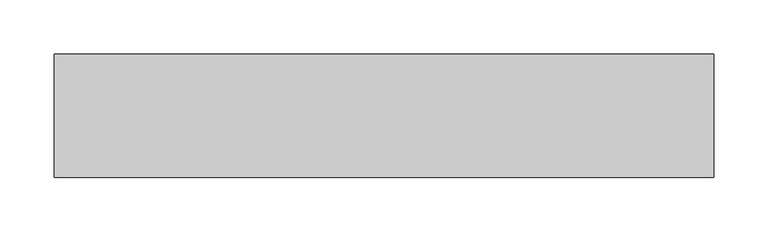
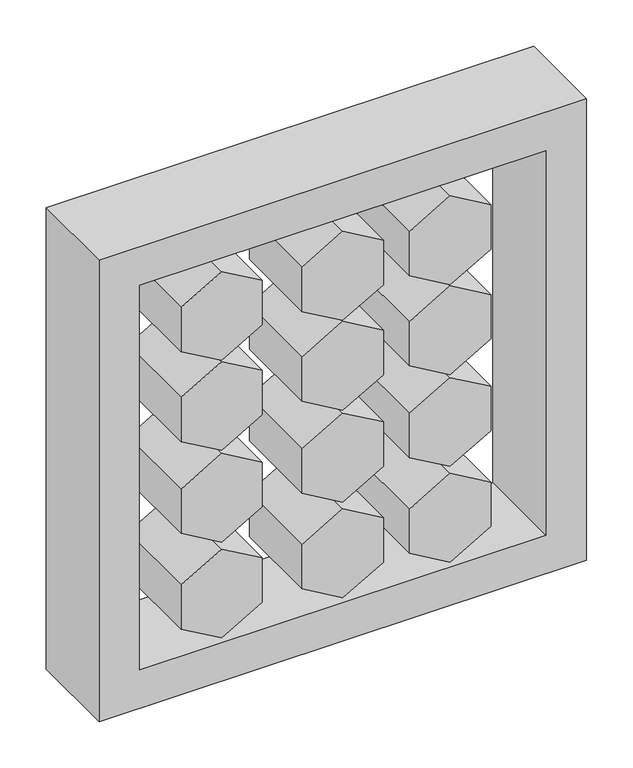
"""IFC4 building model written with IfcOpenShell, lengths in millimetres: proxy geometry, stone jhali : stone jhali."""

from ifc_helpers import new_model, si_unit, frame, origin, place, context, project, spatial, polyline, outline, extrude, source, transform, mapped, element, save


def generic_models_3e702864(model_context):
    return source(origin(), model_context, "Body", "SweptSolid", [
        extrude(outline(polyline([(-304.8, -304.8), (-304.8, 304.8), (304.8, 304.8), (304.8, -304.8), (-304.8, -304.8)]), holes=[polyline([(254.0, 254.0), (-254.0, 254.0), (-254.0, -254.0), (254.0, -254.0), (254.0, 254.0)])]), frame((0.0, 0.0, 0.0), z_axis=(0.0, 1.0, 0.0), x_axis=(0.0, 0.0, 1.0)), (0.0, 0.0, 1.0), 114.3),
        extrude(outline(polyline([(206.8119014, -202.3622907), (148.153114, -202.3622907), (118.8237204, -151.5622907), (148.153114, -100.7622907), (206.8119014, -100.7622907), (236.1412951, -151.5622907), (206.8119014, -202.3622907)])), frame((0.0, 0.0, 0.0), z_axis=(0.0, 1.0, 0.0), x_axis=(0.0, 0.0, 1.0)), (0.0, 0.0, 1.0), 114.3),
        extrude(outline(polyline([(206.8119014, -50.8), (148.153114, -50.8), (118.8237204, 0.0), (148.153114, 50.8), (206.8119014, 50.8), (236.1412951, 0.0), (206.8119014, -50.8)])), frame((0.0, 0.0, 0.0), z_axis=(0.0, 1.0, 0.0), x_axis=(0.0, 0.0, 1.0)), (0.0, 0.0, 1.0), 114.3),
        extrude(outline(polyline([(206.8119014, 83.3877093), (148.153114, 83.3877093), (118.8237204, 134.1877093), (148.153114, 184.9877093), (206.8119014, 184.9877093), (236.1412951, 134.1877093), (206.8119014, 83.3877093)])), frame((0.0, 0.0, 0.0), z_axis=(0.0, 1.0, 0.0), x_axis=(0.0, 0.0, 1.0)), (0.0, 0.0, 1.0), 114.3),
        extrude(outline(polyline([(87.988181, -202.3622907), (29.3293937, -202.3622907), (0.0, -151.5622907), (29.3293937, -100.7622907), (87.988181, -100.7622907), (117.3175747, -151.5622907), (87.988181, -202.3622907)])), frame((0.0, 0.0, 0.0), z_axis=(0.0, 1.0, 0.0), x_axis=(0.0, 0.0, 1.0)), (0.0, 0.0, 1.0), 114.3),
        extrude(outline(polyline([(87.988181, -50.8), (29.3293937, -50.8), (0.0, 0.0), (29.3293937, 50.8), (87.988181, 50.8), (117.3175747, 0.0), (87.988181, -50.8)])), frame((0.0, 0.0, 0.0), z_axis=(0.0, 1.0, 0.0), x_axis=(0.0, 0.0, 1.0)), (0.0, 0.0, 1.0), 114.3),
        extrude(outline(polyline([(87.988181, 83.3877093), (29.3293937, 83.3877093), (0.0, 134.1877093), (29.3293937, 184.9877093), (87.988181, 184.9877093), (117.3175747, 134.1877093), (87.988181, 83.3877093)])), frame((0.0, 0.0, 0.0), z_axis=(0.0, 1.0, 0.0), x_axis=(0.0, 0.0, 1.0)), (0.0, 0.0, 1.0), 114.3),
        extrude(outline(polyline([(-33.2587873, -202.3622907), (-91.9175747, -202.3622907), (-121.2469684, -151.5622907), (-91.9175747, -100.7622907), (-33.2587873, -100.7622907), (-3.9293937, -151.5622907), (-33.2587873, -202.3622907)])), frame((0.0, 0.0, 0.0), z_axis=(0.0, 1.0, 0.0), x_axis=(0.0, 0.0, 1.0)), (0.0, 0.0, 1.0), 114.3),
        extrude(outline(polyline([(-33.2587873, -50.8), (-91.9175747, -50.8), (-121.2469684, 0.0), (-91.9175747, 50.8), (-33.2587873, 50.8), (-3.9293937, 0.0), (-33.2587873, -50.8)])), frame((0.0, 0.0, 0.0), z_axis=(0.0, 1.0, 0.0), x_axis=(0.0, 0.0, 1.0)), (0.0, 0.0, 1.0), 114.3),
        extrude(outline(polyline([(-33.2587873, 83.3877093), (-91.9175747, 83.3877093), (-121.2469684, 134.1877093), (-91.9175747, 184.9877093), (-33.2587873, 184.9877093), (-3.9293937, 134.1877093), (-33.2587873, 83.3877093)])), frame((0.0, 0.0, 0.0), z_axis=(0.0, 1.0, 0.0), x_axis=(0.0, 0.0, 1.0)), (0.0, 0.0, 1.0), 114.3),
        extrude(outline(polyline([(-159.661819, -202.3622907), (-218.3206063, -202.3622907), (-247.65, -151.5622907), (-218.3206063, -100.7622907), (-159.661819, -100.7622907), (-130.3324253, -151.5622907), (-159.661819, -202.3622907)])), frame((0.0, 0.0, 0.0), z_axis=(0.0, 1.0, 0.0), x_axis=(0.0, 0.0, 1.0)), (0.0, 0.0, 1.0), 114.3),
        extrude(outline(polyline([(-159.661819, -50.8), (-218.3206063, -50.8), (-247.65, 0.0), (-218.3206063, 50.8), (-159.661819, 50.8), (-130.3324253, 0.0), (-159.661819, -50.8)])), frame((0.0, 0.0, 0.0), z_axis=(0.0, 1.0, 0.0), x_axis=(0.0, 0.0, 1.0)), (0.0, 0.0, 1.0), 114.3),
        extrude(outline(polyline([(-159.661819, 83.3877093), (-218.3206063, 83.3877093), (-247.65, 134.1877093), (-218.3206063, 184.9877093), (-159.661819, 184.9877093), (-130.3324253, 134.1877093), (-159.661819, 83.3877093)])), frame((0.0, 0.0, 0.0), z_axis=(0.0, 1.0, 0.0), x_axis=(0.0, 0.0, 1.0)), (0.0, 0.0, 1.0), 114.3),
    ])


if __name__ == "__main__":
    model = new_model("IFC4")
    model_context = context("Model", 3, world=origin())
    ifc_project = project(units=[si_unit("LENGTHUNIT", "METRE", prefix="MILLI")], contexts=[model_context])
    site = spatial("IfcSite", under=ifc_project)
    building = spatial("IfcBuilding", under=site)
    placement = place(None, origin())
    generic_models_shape = generic_models_3e702864(model_context)
    element("IfcBuildingElementProxy", 1, Name="stone jhali : stone jhali", ObjectType="stone jhali : stone jhali", at=placement, inside=building, context=model_context, shape_type="MappedRepresentation", body=[
        mapped(generic_models_shape, transform((0.0, 0.0, 0.0), x_axis=(1.0, 0.0, 0.0), y_axis=(0.0, 1.0, 0.0), z_axis=(0.0, 0.0, 1.0))),
    ])
    save(model, "model.ifc")
